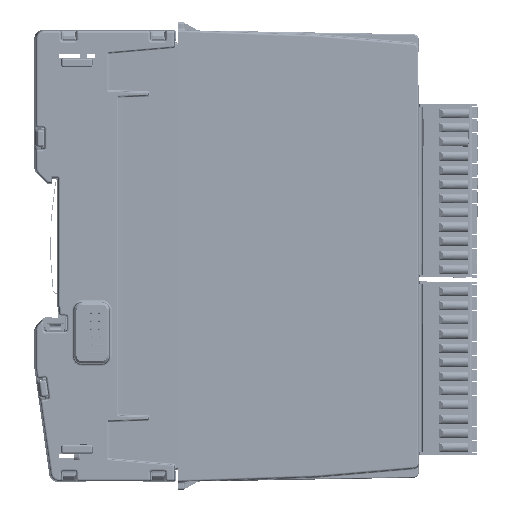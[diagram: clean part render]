
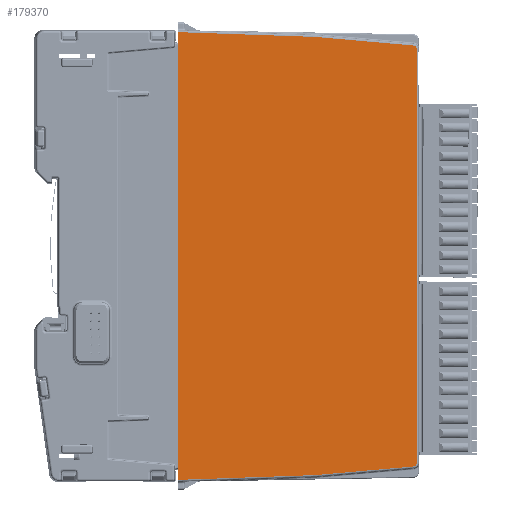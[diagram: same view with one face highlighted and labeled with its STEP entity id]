
A CAD part, left-side view. The second image highlights one B-rep face of the part: STEP entity #179370.
In plain terms, the highlighted planar face has unit normal (-1, -0.018, 0).
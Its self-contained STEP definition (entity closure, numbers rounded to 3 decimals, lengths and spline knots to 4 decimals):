
#16694=FACE_OUTER_BOUND('',#26639,.T.);
#26639=EDGE_LOOP('',(#141513,#141514,#141515,#141516,#141517,#141518,#141519,
#141520,#141521,#141522));
#42738=LINE('',#298435,#60394);
#42739=LINE('',#298437,#60395);
#42740=LINE('',#298439,#60396);
#42741=LINE('',#298441,#60397);
#42742=LINE('',#298443,#60398);
#42743=LINE('',#298447,#60399);
#42744=LINE('',#298451,#60400);
#42745=LINE('',#298452,#60401);
#60394=VECTOR('',#229364,39.3701);
#60395=VECTOR('',#229365,39.3701);
#60396=VECTOR('',#229366,39.3701);
#60397=VECTOR('',#229367,39.3701);
#60398=VECTOR('',#229368,39.3701);
#60399=VECTOR('',#229371,39.3701);
#60400=VECTOR('',#229374,39.3701);
#60401=VECTOR('',#229375,39.3701);
#66918=ELLIPSE('',#192679,0.0315,0.0315);
#66919=ELLIPSE('',#192680,0.0315,0.0315);
#78343=VERTEX_POINT('',#298433);
#78344=VERTEX_POINT('',#298434);
#78345=VERTEX_POINT('',#298436);
#78346=VERTEX_POINT('',#298438);
#78347=VERTEX_POINT('',#298440);
#78348=VERTEX_POINT('',#298442);
#78349=VERTEX_POINT('',#298444);
#78350=VERTEX_POINT('',#298446);
#78351=VERTEX_POINT('',#298448);
#78352=VERTEX_POINT('',#298450);
#100321=EDGE_CURVE('',#78343,#78344,#42738,.T.);
#100322=EDGE_CURVE('',#78345,#78344,#42739,.T.);
#100323=EDGE_CURVE('',#78345,#78346,#42740,.T.);
#100324=EDGE_CURVE('',#78346,#78347,#42741,.T.);
#100325=EDGE_CURVE('',#78347,#78348,#42742,.T.);
#100326=EDGE_CURVE('',#78348,#78349,#66918,.T.);
#100327=EDGE_CURVE('',#78349,#78350,#42743,.T.);
#100328=EDGE_CURVE('',#78350,#78351,#66919,.T.);
#100329=EDGE_CURVE('',#78351,#78352,#42744,.T.);
#100330=EDGE_CURVE('',#78352,#78343,#42745,.T.);
#141513=ORIENTED_EDGE('',*,*,#100321,.T.);
#141514=ORIENTED_EDGE('',*,*,#100322,.F.);
#141515=ORIENTED_EDGE('',*,*,#100323,.T.);
#141516=ORIENTED_EDGE('',*,*,#100324,.T.);
#141517=ORIENTED_EDGE('',*,*,#100325,.T.);
#141518=ORIENTED_EDGE('',*,*,#100326,.T.);
#141519=ORIENTED_EDGE('',*,*,#100327,.T.);
#141520=ORIENTED_EDGE('',*,*,#100328,.T.);
#141521=ORIENTED_EDGE('',*,*,#100329,.T.);
#141522=ORIENTED_EDGE('',*,*,#100330,.T.);
#161736=PLANE('',#192678);
#179370=ADVANCED_FACE('',(#16694),#161736,.T.);
#192678=AXIS2_PLACEMENT_3D('',#298432,#229362,#229363);
#192679=AXIS2_PLACEMENT_3D('',#298445,#229369,#229370);
#192680=AXIS2_PLACEMENT_3D('',#298449,#229372,#229373);
#229362=DIRECTION('center_axis',(-1.,-0.017,
0.));
#229363=DIRECTION('ref_axis',(-0.017,1.,0.));
#229364=DIRECTION('',(0.,0.,-1.));
#229365=DIRECTION('',(0.,0.,1.));
#229366=DIRECTION('',(0.,0.,-1.));
#229367=DIRECTION('',(0.017,-0.999,0.035));
#229368=DIRECTION('',(0.017,-0.996,0.087));
#229369=DIRECTION('center_axis',(-1.,-0.017,
0.));
#229370=DIRECTION('ref_axis',(0.017,-1.,0.));
#229371=DIRECTION('',(0.,0.,1.));
#229372=DIRECTION('center_axis',(-1.,-0.017,
0.));
#229373=DIRECTION('ref_axis',(0.017,-1.,0.));
#229374=DIRECTION('',(-0.017,0.996,0.087));
#229375=DIRECTION('',(-0.017,0.999,0.035));
#298432=CARTESIAN_POINT('Origin',(-0.0296,-0.489,
-2.0669));
#298433=CARTESIAN_POINT('',(-0.0227,-0.8827,0.1083));
#298434=CARTESIAN_POINT('',(-0.0227,-0.8827,-0.0312));
#298435=CARTESIAN_POINT('',(-0.0227,-0.8827,0.128));
#298436=CARTESIAN_POINT('',(-0.0227,-0.8827,-4.1027));
#298437=CARTESIAN_POINT('',(-0.0227,-0.8827,-7.5932));
#298438=CARTESIAN_POINT('',(-0.0227,-0.8827,-4.2421));
#298439=CARTESIAN_POINT('',(-0.0227,-0.8827,0.128));
#298440=CARTESIAN_POINT('',(0.0007,-2.2205,-4.1954));
#298441=CARTESIAN_POINT('',(-0.0282,-0.5654,-4.2532));
#298442=CARTESIAN_POINT('',(0.0174,-3.1772,-4.1117));
#298443=CARTESIAN_POINT('',(-0.0261,-0.6869,-4.3296));
#298444=CARTESIAN_POINT('',(0.0179,-3.2059,-4.0803));
#298445=CARTESIAN_POINT('Origin',(0.0173,-3.1744,
-4.0803));
#298446=CARTESIAN_POINT('',(0.0179,-3.2059,-0.0535));
#298447=CARTESIAN_POINT('',(0.0179,-3.2059,-0.0535));
#298448=CARTESIAN_POINT('',(0.0174,-3.1772,-0.0221));
#298449=CARTESIAN_POINT('Origin',(0.0173,-3.1744,
-0.0535));
#298450=CARTESIAN_POINT('',(0.0007,-2.2205,0.0616));
#298451=CARTESIAN_POINT('',(-0.0261,-0.6869,0.1957));
#298452=CARTESIAN_POINT('',(-0.0282,-0.5654,0.1194));
